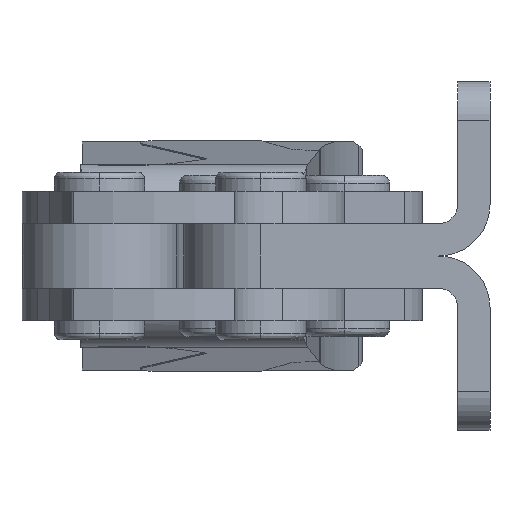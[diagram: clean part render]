
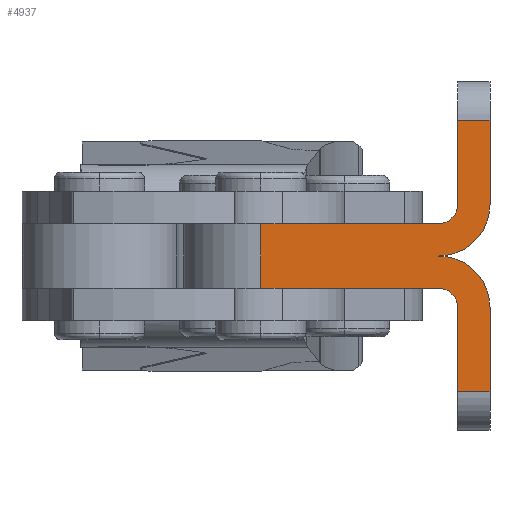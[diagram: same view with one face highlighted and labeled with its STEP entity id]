
A CAD part, left-side view. The second image highlights one B-rep face of the part: STEP entity #4937.
In plain terms, the highlighted planar face has unit normal (-1, 0, 0).
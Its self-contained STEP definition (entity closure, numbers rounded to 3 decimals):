
#11 = VERTEX_POINT ( 'NONE', #2009 ) ;
#42 = DIRECTION ( 'NONE',  ( 0., 0., -1. ) ) ;
#92 = ORIENTED_EDGE ( 'NONE', *, *, #5031, .F. ) ;
#253 = ORIENTED_EDGE ( 'NONE', *, *, #5968, .F. ) ;
#462 = CARTESIAN_POINT ( 'NONE',  ( 0., 0., 4. ) ) ;
#494 = ORIENTED_EDGE ( 'NONE', *, *, #4849, .F. ) ;
#502 = CARTESIAN_POINT ( 'NONE',  ( 0., 0., -4. ) ) ;
#773 = PLANE ( 'NONE',  #1299 ) ;
#832 = EDGE_CURVE ( 'NONE', #11, #2224, #7374, .T. ) ;
#888 = DIRECTION ( 'NONE',  ( 0., 0., 1. ) ) ;
#889 = VECTOR ( 'NONE', #2978, 1000. ) ;
#1103 = VECTOR ( 'NONE', #2378, 1000. ) ;
#1122 = DIRECTION ( 'NONE',  ( 0., 0., -1. ) ) ;
#1268 = CIRCLE ( 'NONE', #5641, 1.5 ) ;
#1299 = AXIS2_PLACEMENT_3D ( 'NONE', #5188, #5798, #2747 ) ;
#1429 = VECTOR ( 'NONE', #888, 1000. ) ;
#1861 = EDGE_CURVE ( 'NONE', #7508, #2815, #3776, .T. ) ;
#1981 = CARTESIAN_POINT ( 'NONE',  ( 0., 2.5, -10.5 ) ) ;
#2009 = CARTESIAN_POINT ( 'NONE',  ( 0., 2.5, 10.5 ) ) ;
#2140 = CARTESIAN_POINT ( 'NONE',  ( 0., 0., 10.5 ) ) ;
#2172 = VECTOR ( 'NONE', #7866, 1000. ) ;
#2224 = VERTEX_POINT ( 'NONE', #2140 ) ;
#2319 = VECTOR ( 'NONE', #6651, 1000. ) ;
#2327 = CARTESIAN_POINT ( 'NONE',  ( 0., 0., 4. ) ) ;
#2337 = EDGE_CURVE ( 'NONE', #6029, #6913, #6943, .T. ) ;
#2378 = DIRECTION ( 'NONE',  ( 0., 0., 1. ) ) ;
#2459 = VECTOR ( 'NONE', #4708, 1000. ) ;
#2509 = ORIENTED_EDGE ( 'NONE', *, *, #832, .F. ) ;
#2549 = CARTESIAN_POINT ( 'NONE',  ( 0., 4., 0. ) ) ;
#2563 = VECTOR ( 'NONE', #6256, 1000. ) ;
#2567 = CARTESIAN_POINT ( 'NONE',  ( 0., 0., 4. ) ) ;
#2663 = LINE ( 'NONE', #7473, #2563 ) ;
#2747 = DIRECTION ( 'NONE',  ( 0., 0., -1. ) ) ;
#2815 = VERTEX_POINT ( 'NONE', #5791 ) ;
#2818 = DIRECTION ( 'NONE',  ( 0., 0., -1. ) ) ;
#2951 = CIRCLE ( 'NONE', #7159, 4. ) ;
#2960 = CARTESIAN_POINT ( 'NONE',  ( 0., 4., 10.5 ) ) ;
#2978 = DIRECTION ( 'NONE',  ( 0., 0., -1. ) ) ;
#3437 = DIRECTION ( 'NONE',  ( 0., 1., 0. ) ) ;
#3450 = CARTESIAN_POINT ( 'NONE',  ( 0., 4., -4. ) ) ;
#3490 = ORIENTED_EDGE ( 'NONE', *, *, #1861, .F. ) ;
#3525 = ORIENTED_EDGE ( 'NONE', *, *, #4370, .F. ) ;
#3534 = ORIENTED_EDGE ( 'NONE', *, *, #4722, .F. ) ;
#3550 = ORIENTED_EDGE ( 'NONE', *, *, #4381, .F. ) ;
#3552 = DIRECTION ( 'NONE',  ( 1., 0., 0. ) ) ;
#3776 = CIRCLE ( 'NONE', #5934, 1.5 ) ;
#3955 = ORIENTED_EDGE ( 'NONE', *, *, #5115, .T. ) ;
#3985 = ORIENTED_EDGE ( 'NONE', *, *, #4021, .F. ) ;
#4021 = EDGE_CURVE ( 'NONE', #2224, #7245, #6737, .T. ) ;
#4102 = DIRECTION ( 'NONE',  ( -1., 0., 0. ) ) ;
#4106 = VERTEX_POINT ( 'NONE', #2549 ) ;
#4125 = DIRECTION ( 'NONE',  ( 1., 0., 0. ) ) ;
#4210 = VERTEX_POINT ( 'NONE', #7668 ) ;
#4225 = CARTESIAN_POINT ( 'NONE',  ( 0., 4., 2.5 ) ) ;
#4246 = ORIENTED_EDGE ( 'NONE', *, *, #4687, .F. ) ;
#4370 = EDGE_CURVE ( 'NONE', #6390, #6029, #4522, .T. ) ;
#4373 = LINE ( 'NONE', #6579, #1429 ) ;
#4381 = EDGE_CURVE ( 'NONE', #6913, #7508, #5759, .T. ) ;
#4467 = VERTEX_POINT ( 'NONE', #4225 ) ;
#4522 = LINE ( 'NONE', #2327, #889 ) ;
#4581 = CARTESIAN_POINT ( 'NONE',  ( 0., 17.75, -2.5 ) ) ;
#4687 = EDGE_CURVE ( 'NONE', #2815, #7403, #5579, .T. ) ;
#4708 = DIRECTION ( 'NONE',  ( 0., -1., 0. ) ) ;
#4722 = EDGE_CURVE ( 'NONE', #7245, #4106, #2951, .T. ) ;
#4754 = AXIS2_PLACEMENT_3D ( 'NONE', #3450, #4125, #2818 ) ;
#4777 = EDGE_LOOP ( 'NONE', ( #4246, #3490, #3550, #7836, #3525, #253, #3534, #3985, #2509, #494, #6958, #3955, #92 ) ) ;
#4808 = CARTESIAN_POINT ( 'NONE',  ( 0., 4., -10.5 ) ) ;
#4849 = EDGE_CURVE ( 'NONE', #5347, #11, #2663, .T. ) ;
#4918 = LINE ( 'NONE', #7724, #7206 ) ;
#4937 = ADVANCED_FACE ( 'NONE', ( #5187 ), #773, .F. ) ;
#5031 = EDGE_CURVE ( 'NONE', #7403, #4210, #4373, .T. ) ;
#5115 = EDGE_CURVE ( 'NONE', #4467, #4210, #4918, .T. ) ;
#5187 = FACE_OUTER_BOUND ( 'NONE', #4777, .T. ) ;
#5188 = CARTESIAN_POINT ( 'NONE',  ( 0., 4., 4. ) ) ;
#5248 = CIRCLE ( 'NONE', #4754, 4. ) ;
#5347 = VERTEX_POINT ( 'NONE', #6834 ) ;
#5391 = CARTESIAN_POINT ( 'NONE',  ( 0., 4., 4. ) ) ;
#5579 = LINE ( 'NONE', #6584, #2172 ) ;
#5641 = AXIS2_PLACEMENT_3D ( 'NONE', #5391, #4102, #5777 ) ;
#5759 = LINE ( 'NONE', #5998, #1103 ) ;
#5777 = DIRECTION ( 'NONE',  ( 0., 0., -1. ) ) ;
#5791 = CARTESIAN_POINT ( 'NONE',  ( 0., 4., -2.5 ) ) ;
#5798 = DIRECTION ( 'NONE',  ( 1., 0., 0. ) ) ;
#5934 = AXIS2_PLACEMENT_3D ( 'NONE', #6309, #7524, #42 ) ;
#5968 = EDGE_CURVE ( 'NONE', #4106, #6390, #5248, .T. ) ;
#5991 = CARTESIAN_POINT ( 'NONE',  ( 0., 4., 4. ) ) ;
#5998 = CARTESIAN_POINT ( 'NONE',  ( 0., 2.5, 4. ) ) ;
#6029 = VERTEX_POINT ( 'NONE', #6639 ) ;
#6256 = DIRECTION ( 'NONE',  ( 0., 0., 1. ) ) ;
#6309 = CARTESIAN_POINT ( 'NONE',  ( 0., 4., -4. ) ) ;
#6390 = VERTEX_POINT ( 'NONE', #502 ) ;
#6579 = CARTESIAN_POINT ( 'NONE',  ( 0., 17.75, 13.5 ) ) ;
#6584 = CARTESIAN_POINT ( 'NONE',  ( 0., 4., -2.5 ) ) ;
#6639 = CARTESIAN_POINT ( 'NONE',  ( 0., 0., -10.5 ) ) ;
#6651 = DIRECTION ( 'NONE',  ( 0., 1., 0. ) ) ;
#6737 = LINE ( 'NONE', #462, #7615 ) ;
#6834 = CARTESIAN_POINT ( 'NONE',  ( 0., 2.5, 4. ) ) ;
#6913 = VERTEX_POINT ( 'NONE', #1981 ) ;
#6943 = LINE ( 'NONE', #4808, #2319 ) ;
#6958 = ORIENTED_EDGE ( 'NONE', *, *, #7954, .F. ) ;
#7159 = AXIS2_PLACEMENT_3D ( 'NONE', #5991, #3552, #7892 ) ;
#7206 = VECTOR ( 'NONE', #3437, 1000. ) ;
#7245 = VERTEX_POINT ( 'NONE', #2567 ) ;
#7374 = LINE ( 'NONE', #2960, #2459 ) ;
#7403 = VERTEX_POINT ( 'NONE', #4581 ) ;
#7473 = CARTESIAN_POINT ( 'NONE',  ( 0., 2.5, 4. ) ) ;
#7508 = VERTEX_POINT ( 'NONE', #7953 ) ;
#7524 = DIRECTION ( 'NONE',  ( -1., 0., 0. ) ) ;
#7615 = VECTOR ( 'NONE', #1122, 1000. ) ;
#7668 = CARTESIAN_POINT ( 'NONE',  ( 0., 17.75, 2.5 ) ) ;
#7724 = CARTESIAN_POINT ( 'NONE',  ( 0., 28.75, 2.5 ) ) ;
#7836 = ORIENTED_EDGE ( 'NONE', *, *, #2337, .F. ) ;
#7866 = DIRECTION ( 'NONE',  ( 0., 1., 0. ) ) ;
#7892 = DIRECTION ( 'NONE',  ( 0., 0., -1. ) ) ;
#7953 = CARTESIAN_POINT ( 'NONE',  ( 0., 2.5, -4. ) ) ;
#7954 = EDGE_CURVE ( 'NONE', #4467, #5347, #1268, .T. ) ;
